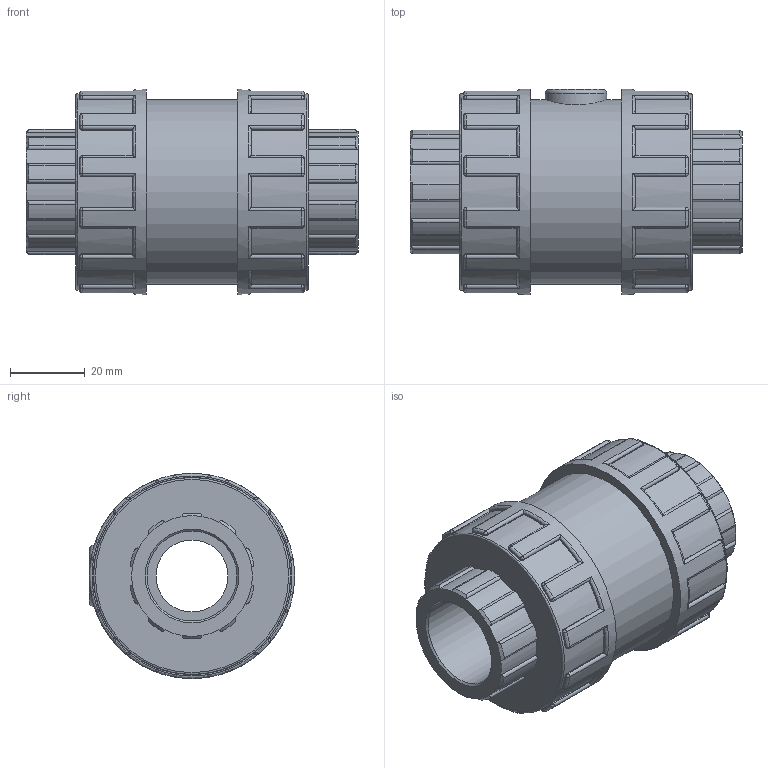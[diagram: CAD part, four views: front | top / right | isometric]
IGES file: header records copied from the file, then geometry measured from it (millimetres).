
Global section: file name: 11081007.ipt; native system: Autodesk Inventor 2015; preprocessor: unknown; author: KIM; date: 20171207.170048; units: millimetre
Bounding box: 89 x 55 x 55 mm (x, y, z)
Volume: 124675.5 mm3; surface area: 24684.2 mm2
Topology: 1 solids, 1 shells, 411 faces, 1033 edges, 630 vertices
Faces by surface type: cylinder 182, plane 105, revolution 56, sphere 48, cone 20
Full cylindrical faces by diameter (mm): 16.5 x1, 49.5 x1, 52.8 x2, 55 x2
